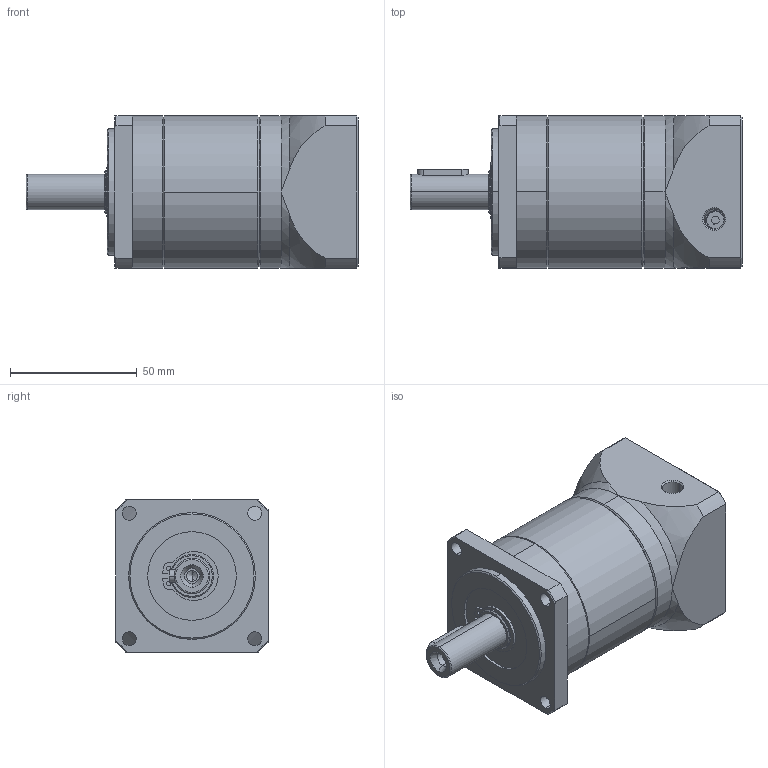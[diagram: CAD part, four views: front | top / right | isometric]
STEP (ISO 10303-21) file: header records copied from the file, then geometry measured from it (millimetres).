
FILE_DESCRIPTION(/* description */ (''),/* implementation_level */ '2;1');
FILE_NAME(/* name */ 'WPF60-L2-50-70-M5-14-31.5.stp',/* time_stamp */ '2025-06-19T19:25:16+08:00',/* author */ (''),/* organization */ (''),/* preprocessor_version */ 'ST-DEVELOPER v16.7',/* originating_system */ 'SIEMENS PLM Software NX 12.0',/* authorisation */ '');
FILE_SCHEMA (('AUTOMOTIVE_DESIGN { 1 0 10303 214 3 1 1 1 }'));
Length unit declared in the file: millimetre
Products named in the file (9): PF60-M5; PL60内齿圈双级; 17轴用卡簧-A型; PF60上盖板; 键5-5-20; PF60联轴器; PF60轴承替代板; 內六角 M4X15螺釘; WPF60-L2-50-70-M4-14-31.5_step
Assembly tree (13 placements, depth 2):
  WPF60-L2-50-70-M4-14-31.5_step
    內六角 M4X15螺釘  x6
    PF60轴承替代板
    PF60联轴器
    键5-5-20
    PF60上盖板
    17轴用卡簧-A型
    PL60内齿圈双级
    PF60-M5
Bounding box: 131 x 60 x 60 mm (x, y, z)
Volume: 265044.9 mm3; surface area: 62382.4 mm2
Topology: 13 solids, 13 shells, 486 faces, 1122 edges, 691 vertices
Faces by surface type: cylinder 192, plane 149, cone 109, torus 32, bspline 4
Entity records: 12173 total; most frequent: CARTESIAN_POINT 2195, DIRECTION 2097, ORIENTED_EDGE 1784, EDGE_CURVE 892, AXIS2_PLACEMENT_3D 857, VERTEX_POINT 561, EDGE_LOOP 461, CIRCLE 461
